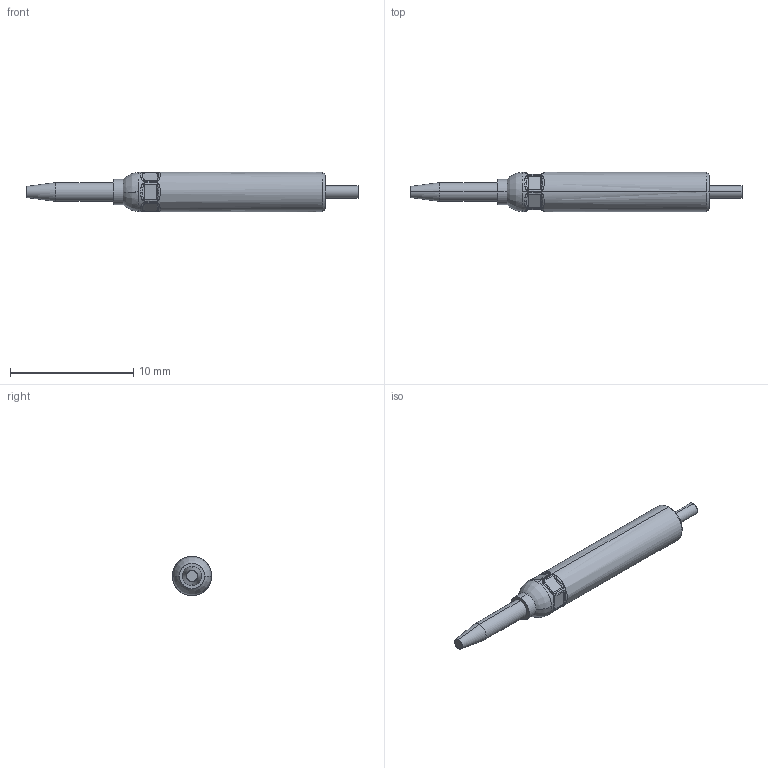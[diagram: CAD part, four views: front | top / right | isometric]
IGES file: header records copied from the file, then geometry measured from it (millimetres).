
Start section: SolidWorks IGES file using analytic representation for surfaces
Global section: file name: Z:\probe solid model mockups\Solidworks models\IGES Files\SSP-5C IGES files\SSP-5C Full.IGS; native system: SolidWorks 2006 by SolidWorks Corporation; preprocessor: SolidWorks 2006 by SolidWorks Corporation; author: tsakatani; date: 080103.133145; units: inch
Bounding box: 26.92 x 3.17 x 3.17 mm (x, y, z)
Surface area: 224.1 mm2 (no closed solid volume)
Topology: 0 solids, 0 shells, 106 faces, 754 edges, 754 vertices
Faces by surface type: bspline 64, revolution 42
